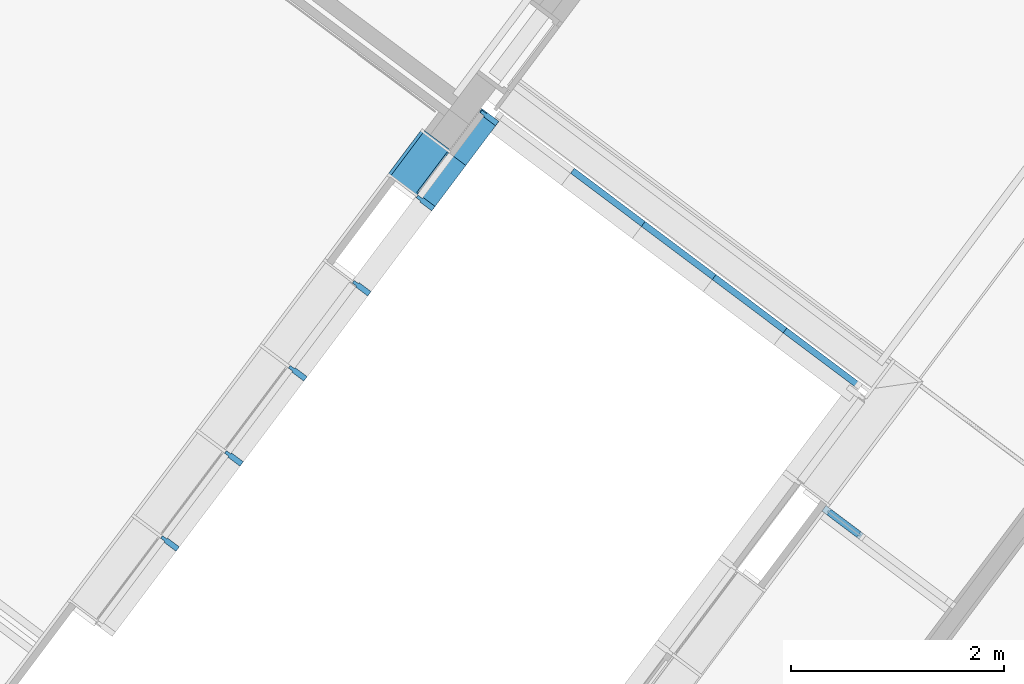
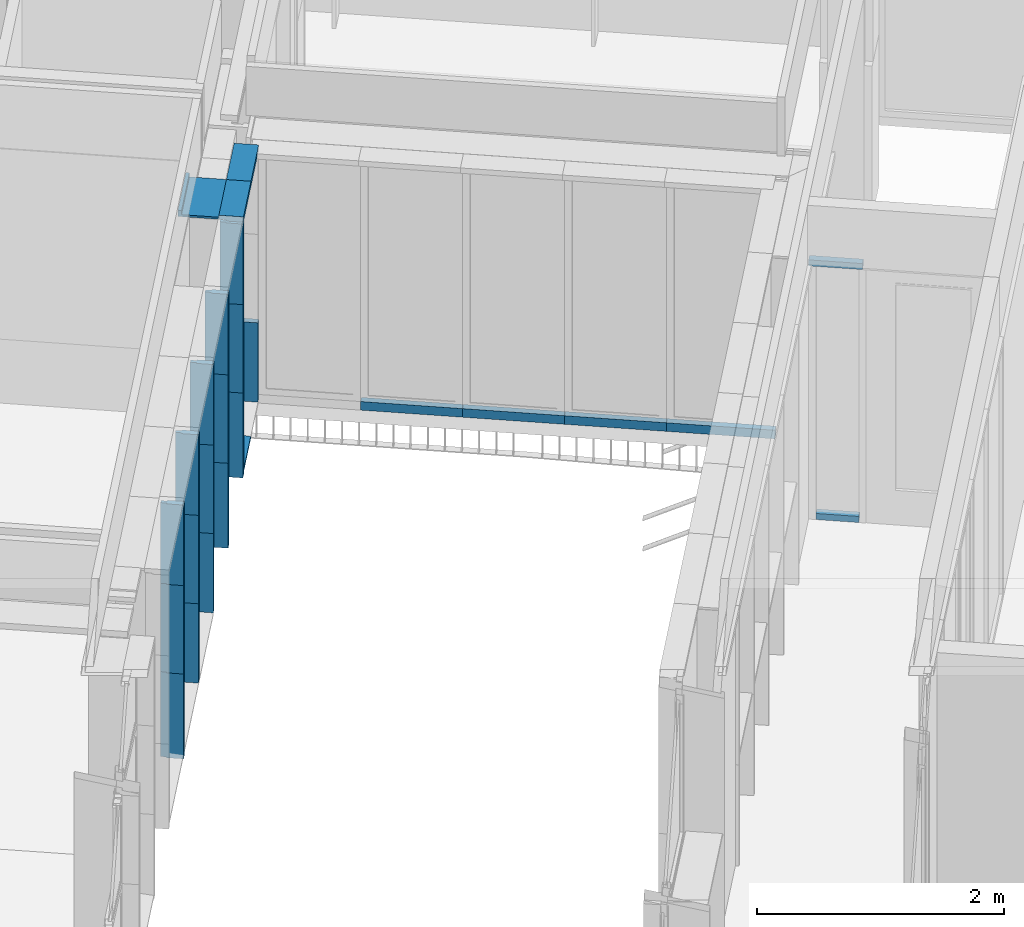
# One storey, part 104 of 243: 26 members, 4 elements without a shape of their own.
"""IFC2X3 building model written with IfcOpenShell, lengths in metres."""

import ifcopenshell
import ifcopenshell.guid

model = None  # the IFC model being written
_history = None  # IfcOwnerHistory: only IFC2X3 demands one
_inside = {}  # id of a spatial element -> (the spatial element, [elements in it])
_under = {}  # id of a project, library or spatial element -> (it, [spatial elements below it])
_declared = {}  # id of a project -> (the project, [libraries it declares])
_typed = {}  # id of a type object -> (the type object, [elements of that type])
_made_of = {}  # id of a material, layer set ... -> (it, [elements and type objects made of it])


def new_model(schema):
    """Start an empty IFC model of exactly this schema.

    Asked for "IFC4X3", IfcOpenShell would pick the latest addendum, in which some entities
    have other attributes; the version numbers below select the first issue.
    IFC2X3 requires an IfcOwnerHistory on every rooted entity: one is made here for all.
    """
    global model, _history
    if schema == "IFC4X3":
        model = ifcopenshell.file(schema_version=(4, 3, 0, 0))
    else:
        model = ifcopenshell.file(schema=schema)
    _inside.clear()
    _under.clear()
    _declared.clear()
    _typed.clear()
    _made_of.clear()
    _history = None
    if model.schema == "IFC2X3":
        org = make("IfcOrganization", Name="unknown")
        user = make(
            "IfcPersonAndOrganization",
            ThePerson=make("IfcPerson", FamilyName="unknown"),
            TheOrganization=org,
        )
        app = make(
            "IfcApplication",
            ApplicationDeveloper=org,
            Version="unknown",
            ApplicationFullName="unknown",
            ApplicationIdentifier="unknown",
        )
        _history = make(
            "IfcOwnerHistory",
            OwningUser=user,
            OwningApplication=app,
            ChangeAction="ADDED",
            CreationDate=0,
        )
    return model


def make(cls, **values):
    """One entity of the class cls with the attributes given. An attribute that is None is left unset."""
    return model.create_entity(
        cls, **{name: value for name, value in values.items() if value is not None}
    )


def entity(cls, *values):
    """Any entity or typed value of the class cls, its attributes in the order of the schema. None: left unset."""
    e = model.create_entity(cls)
    for i, value in enumerate(values):
        if value is not None:
            e[i] = value
    return e


def rooted(cls, **values):
    """An entity with a GlobalId (a new one), such as an element, a storey or a relation."""
    return make(cls, GlobalId=ifcopenshell.guid.new(), OwnerHistory=_history, **values)


def si_unit(unit_type, name, prefix=None):
    """IfcSIUnit, for example si_unit("LENGTHUNIT", "METRE", prefix="MILLI")."""
    return make("IfcSIUnit", UnitType=unit_type, Prefix=prefix, Name=name)


def converted_unit(unit_type, name, factor, base, dimensions=None, offset=None):
    """IfcConversionBasedUnit, such as the inch: factor (a typed value) times the base unit."""
    return make(
        "IfcConversionBasedUnit"
        if offset is None
        else "IfcConversionBasedUnitWithOffset",
        ConversionOffset=offset,
        Dimensions=None
        if dimensions is None
        else entity("IfcDimensionalExponents", *dimensions),
        UnitType=unit_type,
        Name=name,
        ConversionFactor=make(
            "IfcMeasureWithUnit", ValueComponent=factor, UnitComponent=base
        ),
    )


def derived_unit(unit_type, elements):
    """IfcDerivedUnit: a product of units, each with its exponent."""
    return make(
        "IfcDerivedUnit",
        Elements=[
            make("IfcDerivedUnitElement", Unit=unit, Exponent=power)
            for unit, power in elements
        ],
        UnitType=unit_type,
    )


def assignment(units):
    """IfcUnitAssignment: the units of a project."""
    return None if units is None else make("IfcUnitAssignment", Units=units)


def point(xyz):
    """IfcCartesianPoint."""
    return None if xyz is None else make("IfcCartesianPoint", Coordinates=xyz)


def direction(xyz):
    """IfcDirection."""
    return None if xyz is None else make("IfcDirection", DirectionRatios=xyz)


def frame(location, z_axis=None, x_axis=None):
    """IfcAxis2Placement3D, a coordinate frame: its origin and axes. An axis left out is left unset."""
    return make(
        "IfcAxis2Placement3D",
        Location=point(location),
        Axis=direction(z_axis),
        RefDirection=direction(x_axis),
    )


def frame_2d(location, x_axis=None):
    """IfcAxis2Placement2D, a coordinate frame in the plane: its origin and x axis."""
    return make(
        "IfcAxis2Placement2D", Location=point(location), RefDirection=direction(x_axis)
    )


def origin():
    """The frame at (0, 0, 0) with its axes left unset."""
    return frame((0.0, 0.0, 0.0))


def place(relative_to, where):
    """IfcLocalPlacement: puts the frame where relative to a parent placement (None: the world)."""
    return make(
        "IfcLocalPlacement", PlacementRelTo=relative_to, RelativePlacement=where
    )


def context(
    kind, dimensions, precision=None, world=None, true_north=None, identifier=None
):
    """IfcGeometricRepresentationContext, for example the 3D "Model" context."""
    return make(
        "IfcGeometricRepresentationContext",
        ContextIdentifier=identifier,
        ContextType=kind,
        CoordinateSpaceDimension=dimensions,
        Precision=precision,
        WorldCoordinateSystem=world,
        TrueNorth=true_north,
    )


def subcontext(parent, identifier, kind, view, scale=None):
    """IfcGeometricRepresentationSubContext, for example "Body" below "Model"."""
    return make(
        "IfcGeometricRepresentationSubContext",
        ContextIdentifier=identifier,
        ContextType=kind,
        ParentContext=parent,
        TargetScale=scale,
        TargetView=view,
    )


def project(units=None, contexts=None):
    """IfcProject with its units and contexts."""
    return rooted(
        "IfcProject",
        Name="project",
        RepresentationContexts=contexts,
        UnitsInContext=assignment(units),
    )


def spatial(cls, under=None, at=None, **own):
    """A site, building, storey or space (cls), placed at a placement, below another one or the project."""
    s = rooted(cls, ObjectPlacement=at, **own)
    if under is not None:
        _under.setdefault(under.id(), (under, []))[1].append(s)
    return s


def polyline(points):
    """IfcPolyline through the points."""
    return make("IfcPolyline", Points=[point(p) for p in points])


def circle_curve(where, radius):
    """IfcCircle in the frame where."""
    return make("IfcCircle", Position=where, Radius=radius)


def parameter(value):
    """IfcParameterValue: where a trimmed curve begins or ends, as a parameter of its basis curve."""
    return model.create_entity("IfcParameterValue", value)


def trimmed(basis, trim1, trim2, sense, master):
    """IfcTrimmedCurve: the piece of a basis curve between two trims."""
    return make(
        "IfcTrimmedCurve",
        BasisCurve=basis,
        Trim1=trim1,
        Trim2=trim2,
        SenseAgreement=sense,
        MasterRepresentation=master,
    )


def segment(curve, same_sense, transition):
    """IfcCompositeCurveSegment."""
    return make(
        "IfcCompositeCurveSegment",
        Transition=transition,
        SameSense=same_sense,
        ParentCurve=curve,
    )


def composite_curve(segments, self_intersect=None):
    """IfcCompositeCurve: segments joined end to end."""
    return make("IfcCompositeCurve", Segments=segments, SelfIntersect=self_intersect)


def profile(cls, at=None, kind="AREA", **sizes):
    """A parametric profile (cls). Its sizes go by their IFC names, for example OverallWidth=200.0."""
    return make(cls, ProfileType=kind, Position=at, **sizes)


def rectangle(**sizes):
    """IfcRectangleProfileDef."""
    return profile("IfcRectangleProfileDef", **sizes)


def outline(outer, holes=None, kind="AREA"):
    """IfcArbitraryClosedProfileDef: a profile drawn as a closed curve; with holes, ...WithVoids."""
    if holes is None:
        return make("IfcArbitraryClosedProfileDef", ProfileType=kind, OuterCurve=outer)
    return make(
        "IfcArbitraryProfileDefWithVoids",
        ProfileType=kind,
        OuterCurve=outer,
        InnerCurves=holes,
    )


def extrude(swept, where, along, depth):
    """IfcExtrudedAreaSolid: the profile swept, set in the frame where, extruded along a direction by depth."""
    return make(
        "IfcExtrudedAreaSolid",
        SweptArea=swept,
        Position=where,
        ExtrudedDirection=direction(along),
        Depth=depth,
    )


def shape(context_of_items, identifier, shape_type, items):
    """IfcShapeRepresentation: the items that make up one representation, for example the "Body"."""
    return make(
        "IfcShapeRepresentation",
        ContextOfItems=context_of_items,
        RepresentationIdentifier=identifier,
        RepresentationType=shape_type,
        Items=items,
    )


def source(mapping_origin, context_of_items, identifier, shape_type, items):
    """IfcRepresentationMap: a shape defined once, which mapped items show again and again."""
    return make(
        "IfcRepresentationMap",
        MappingOrigin=mapping_origin,
        MappedRepresentation=shape(context_of_items, identifier, shape_type, items),
    )


def transform(
    local_origin,
    x_axis=None,
    y_axis=None,
    z_axis=None,
    scale=None,
    scale2=None,
    scale3=None,
    uniform=True,
):
    """IfcCartesianTransformationOperator3D, or its non-uniform kind. x_axis, y_axis, z_axis: its Axis1, 2, 3."""
    if uniform:
        return make(
            "IfcCartesianTransformationOperator3D",
            Axis1=direction(x_axis),
            Axis2=direction(y_axis),
            LocalOrigin=point(local_origin),
            Scale=scale,
            Axis3=direction(z_axis),
        )
    return make(
        "IfcCartesianTransformationOperator3DnonUniform",
        Axis1=direction(x_axis),
        Axis2=direction(y_axis),
        LocalOrigin=point(local_origin),
        Scale=scale,
        Axis3=direction(z_axis),
        Scale2=scale2,
        Scale3=scale3,
    )


def mapped(mapping_source, mapping_target):
    """IfcMappedItem: shows the shape of a source again, moved by a transform."""
    return make(
        "IfcMappedItem", MappingSource=mapping_source, MappingTarget=mapping_target
    )


def material(Name=None, Category=None):
    """IfcMaterial."""
    return make("IfcMaterial", Name=Name, Category=Category)


def made_of(thing, what):
    """Note that an element or type object is made of a material, layer set ...; save() writes the relation."""
    if what is not None:
        _made_of.setdefault(what.id(), (what, []))[1].append(thing)
    return thing


def type_object(cls, material=None, **own):
    """A type object (cls), such as IfcWallType, which elements share."""
    return made_of(rooted(cls, **own), material)


def type_shapes(of_type, sources):
    """Give a type object the sources (RepresentationMaps) that its elements show as mapped items."""
    of_type.RepresentationMaps = sources


def element(
    cls,
    number,
    at=None,
    inside=None,
    cuts=None,
    type_object=None,
    material=None,
    context=None,
    identifier="Body",
    shape_type=None,
    held_by="IfcProductDefinitionShape",
    body=None,
    shapes=None,
    **own,
):
    """One element of the class cls, such as IfcWall. Its Tag is "e" and its number.

    at: its placement. inside: the storey or other place that contains it. cuts: it is an
    opening in that element (IfcRelVoidsElement). A single representation is given by context,
    identifier, shape_type and body (its items); several are given by shapes. held_by: the class
    of the entity that holds the representations. save() writes the other relations.
    """
    e = rooted(cls, Tag="e%d" % number, ObjectPlacement=at, **own)
    if body is not None:
        shapes = [shape(context, identifier, shape_type, body)]
    if shapes is not None:
        e.Representation = make(held_by, Representations=shapes)
    if inside is not None:
        _inside.setdefault(inside.id(), (inside, []))[1].append(e)
    if cuts is not None:
        rooted(
            "IfcRelVoidsElement", RelatingBuildingElement=cuts, RelatedOpeningElement=e
        )
    if type_object is not None:
        _typed.setdefault(type_object.id(), (type_object, []))[1].append(e)
    return made_of(e, material)


def aggregate(whole, parts):
    """IfcRelAggregates: a whole, such as a stair, and the parts it consists of."""
    return rooted("IfcRelAggregates", RelatingObject=whole, RelatedObjects=parts)


def save(model, path):
    """Write the relations noted so far, then the file.

    IfcRelAggregates (storeys below a building ...), IfcRelContainedInSpatialStructure (elements
    in a storey), IfcRelDefinesByType, IfcRelAssociatesMaterial and IfcRelDeclares: one each for
    every whole, place, type object, material and project.
    """
    for whole, parts in _under.values():
        aggregate(whole, parts)
    for where, things in _inside.values():
        rooted(
            "IfcRelContainedInSpatialStructure",
            RelatedElements=things,
            RelatingStructure=where,
        )
    for kind, things in _typed.values():
        rooted("IfcRelDefinesByType", RelatedObjects=things, RelatingType=kind)
    for what, things in _made_of.values():
        rooted("IfcRelAssociatesMaterial", RelatedObjects=things, RelatingMaterial=what)
    for by, libraries in _declared.values():
        rooted("IfcRelDeclares", RelatingContext=by, RelatedDefinitions=libraries)
    model.write(path)


model = new_model("IFC2X3")

# Units and contexts
model_context = context("Model", 3, precision=1e-05, world=origin(), true_north=direction((6.123031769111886e-17, 1.0)))
body_context = subcontext(model_context, "Body", "Model", "MODEL_VIEW")
ifc_project = project(units=[si_unit("LENGTHUNIT", "METRE"), si_unit("AREAUNIT", "SQUARE_METRE"), si_unit("VOLUMEUNIT", "CUBIC_METRE"), converted_unit("PLANEANGLEUNIT", "DEGREE", entity("IfcRatioMeasure", 0.017453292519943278), si_unit("PLANEANGLEUNIT", "RADIAN"), dimensions=[0, 0, 0, 0, 0, 0, 0]), si_unit("MASSUNIT", "GRAM", prefix="KILO"), derived_unit("MASSDENSITYUNIT", [(si_unit("MASSUNIT", "GRAM", prefix="KILO"), 1), (si_unit("LENGTHUNIT", "METRE"), -3)]), derived_unit("IONCONCENTRATIONUNIT", [(si_unit("MASSUNIT", "GRAM", prefix="KILO"), 1), (si_unit("LENGTHUNIT", "METRE"), -3)]), derived_unit("MOMENTOFINERTIAUNIT", [(si_unit("LENGTHUNIT", "METRE"), 4)]), si_unit("TIMEUNIT", "SECOND"), si_unit("FREQUENCYUNIT", "HERTZ"), si_unit("THERMODYNAMICTEMPERATUREUNIT", "DEGREE_CELSIUS"), derived_unit("THERMALTRANSMITTANCEUNIT", [(si_unit("MASSUNIT", "GRAM", prefix="KILO"), 1), (si_unit("THERMODYNAMICTEMPERATUREUNIT", "KELVIN"), -1), (si_unit("TIMEUNIT", "SECOND"), -3)]), derived_unit("THERMALCONDUCTANCEUNIT", [(si_unit("MASSUNIT", "GRAM", prefix="KILO"), 1), (si_unit("THERMODYNAMICTEMPERATUREUNIT", "KELVIN"), -1), (si_unit("TIMEUNIT", "SECOND"), -3), (si_unit("LENGTHUNIT", "METRE"), 1)]), derived_unit("VOLUMETRICFLOWRATEUNIT", [(si_unit("LENGTHUNIT", "METRE"), 3), (si_unit("TIMEUNIT", "SECOND"), -1)]), derived_unit("MASSFLOWRATEUNIT", [(si_unit("MASSUNIT", "GRAM", prefix="KILO"), 1), (si_unit("TIMEUNIT", "SECOND"), -1)]), derived_unit("ROTATIONALFREQUENCYUNIT", [(si_unit("TIMEUNIT", "SECOND"), -1)]), si_unit("ELECTRICCURRENTUNIT", "AMPERE"), si_unit("ELECTRICVOLTAGEUNIT", "VOLT"), si_unit("POWERUNIT", "WATT"), si_unit("FORCEUNIT", "NEWTON", prefix="KILO"), si_unit("ILLUMINANCEUNIT", "LUX"), si_unit("LUMINOUSFLUXUNIT", "LUMEN"), si_unit("LUMINOUSINTENSITYUNIT", "CANDELA"), derived_unit("USERDEFINED", [(si_unit("MASSUNIT", "GRAM", prefix="KILO"), -1), (si_unit("LENGTHUNIT", "METRE"), -2), (si_unit("TIMEUNIT", "SECOND"), 3), (si_unit("LUMINOUSFLUXUNIT", "LUMEN"), 1)]), derived_unit("USERDEFINED", [(si_unit("MASSUNIT", "GRAM", prefix="KILO"), 1), (si_unit("TIMEUNIT", "SECOND"), -3), (si_unit("LENGTHUNIT", "METRE"), 3), (si_unit("ELECTRICCURRENTUNIT", "AMPERE"), -2)]), derived_unit("SOUNDPOWERUNIT", [(si_unit("MASSUNIT", "GRAM", prefix="KILO"), 1), (si_unit("TIMEUNIT", "SECOND"), -3), (si_unit("LENGTHUNIT", "METRE"), 2)]), derived_unit("SOUNDPRESSUREUNIT", [(si_unit("MASSUNIT", "GRAM", prefix="KILO"), 1), (si_unit("LENGTHUNIT", "METRE"), -1), (si_unit("TIMEUNIT", "SECOND"), -2)]), derived_unit("LINEARVELOCITYUNIT", [(si_unit("LENGTHUNIT", "METRE"), 1), (si_unit("TIMEUNIT", "SECOND"), -1)]), si_unit("PRESSUREUNIT", "PASCAL"), derived_unit("USERDEFINED", [(si_unit("MASSUNIT", "GRAM", prefix="KILO"), 1), (si_unit("LENGTHUNIT", "METRE"), -2), (si_unit("TIMEUNIT", "SECOND"), -2)]), derived_unit("LINEARFORCEUNIT", [(si_unit("MASSUNIT", "GRAM", prefix="KILO"), 1), (si_unit("TIMEUNIT", "SECOND"), -2)]), derived_unit("PLANARFORCEUNIT", [(si_unit("MASSUNIT", "GRAM", prefix="KILO"), 1), (si_unit("LENGTHUNIT", "METRE"), -1), (si_unit("TIMEUNIT", "SECOND"), -2)]), derived_unit("SPECIFICHEATCAPACITYUNIT", [(si_unit("THERMODYNAMICTEMPERATUREUNIT", "KELVIN"), -1), (si_unit("LENGTHUNIT", "METRE"), 2), (si_unit("TIMEUNIT", "SECOND"), -2)]), derived_unit("HEATINGVALUEUNIT", [(si_unit("LENGTHUNIT", "METRE"), 2), (si_unit("TIMEUNIT", "SECOND"), -2)]), derived_unit("VAPORPERMEABILITYUNIT", [(si_unit("LENGTHUNIT", "METRE"), -1), (si_unit("TIMEUNIT", "SECOND"), 1)]), derived_unit("DYNAMICVISCOSITYUNIT", [(si_unit("MASSUNIT", "GRAM", prefix="KILO"), 1), (si_unit("TIMEUNIT", "SECOND"), -1), (si_unit("LENGTHUNIT", "METRE"), -1)]), derived_unit("THERMALEXPANSIONCOEFFICIENTUNIT", [(si_unit("THERMODYNAMICTEMPERATUREUNIT", "KELVIN"), -1)]), derived_unit("MODULUSOFELASTICITYUNIT", [(si_unit("MASSUNIT", "GRAM", prefix="KILO"), 1), (si_unit("LENGTHUNIT", "METRE"), -1), (si_unit("TIMEUNIT", "SECOND"), -2)]), derived_unit("ISOTHERMALMOISTURECAPACITYUNIT", [(si_unit("LENGTHUNIT", "METRE"), 3), (si_unit("MASSUNIT", "GRAM", prefix="KILO"), -1)]), derived_unit("MOISTUREDIFFUSIVITYUNIT", [(si_unit("TIMEUNIT", "SECOND"), -1), (si_unit("LENGTHUNIT", "METRE"), 2)])], contexts=[model_context])

# Site, building, storey
site_placement = place(None, frame((0.0, 0.0, 235.0), z_axis=(0.0, 0.0, 1.0), x_axis=(-0.7996477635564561, 0.6004693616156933, 0.0)))
site = spatial("IfcSite", under=ifc_project, at=site_placement, Name="Default", CompositionType="ELEMENT")
building_placement = place(site_placement, origin())
building = spatial("IfcBuilding", under=site, at=building_placement, CompositionType="ELEMENT")
storey_placement = place(building_placement, origin())
storey = spatial("IfcBuildingStorey", under=building, at=storey_placement, Name="P0- Escola", CompositionType="ELEMENT", Elevation=0.0)

# Curtain wall, members
curtain_wall_type_1 = type_object("IfcCurtainWallType", Name="Muro cortina:MC- EXT- MC2", PredefinedType="NOTDEFINED")
curtain_wall_1_placement = place(storey_placement, origin())
curtain_wall_1 = element("IfcCurtainWall", 1, at=curtain_wall_1_placement, inside=storey, type_object=curtain_wall_type_1, Name="Muro cortina:MC- EXT- MC2", ObjectType="Muro cortina:MC- EXT- MC2")
ifc_material_1 = material(Name="_Alumini- T1- Perfil")
member_type_1 = type_object("IfcMemberType", Name="Montante rectangular:MC- Alu- 140x52,5 cm- Fa patis- Centre", PredefinedType="MULLION", material=ifc_material_1)
shared_shape_1 = source(origin(), body_context, "Body", "SweptSolid", [
    extrude(outline(polyline([(-0.11699999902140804, -0.026250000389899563), (0.021999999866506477, -0.026250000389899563), (0.021999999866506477, -0.01500000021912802), (0.07299999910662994, -0.01500000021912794), (0.07299999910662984, 0.015000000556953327), (0.02200000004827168, 0.015000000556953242), (0.02200000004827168, 0.026250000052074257), (-0.11699999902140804, 0.026250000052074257), (-0.11699999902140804, -0.026250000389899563)])), frame((0.0, 0.022999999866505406, -0.8400000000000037), z_axis=(0.0, 0.0, 1.0), x_axis=(0.0, -1.0, 0.0)), (0.0, 0.0, 1.0), 0.8400000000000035),
])
type_shapes(member_type_1, [shared_shape_1])
member_1_placement = place(curtain_wall_1_placement, frame((41.04514768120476, -31.41519175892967, -0.02), z_axis=(0.0, 0.0, -1.0), x_axis=(0.0, -1.0, 0.0)))
member_1 = element("IfcMember", 2, at=member_1_placement, type_object=member_type_1, material=ifc_material_1, Name="Montante rectangular:MC- Alu- 140x52,5 cm- Fa patis- Centre", ObjectType="Montante rectangular:MC- Alu- 140x52,5 cm- Fa patis- Centre", context=body_context, shape_type="MappedRepresentation", body=[
    mapped(shared_shape_1, transform((0.0, 0.0, 0.0), scale=1.0)),
])
member_2_placement = place(curtain_wall_1_placement, frame((41.04514768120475, -35.415191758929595, -0.02), z_axis=(0.0, 0.0, -1.0), x_axis=(0.0, -1.0, 0.0)))
member_2 = element("IfcMember", 3, at=member_2_placement, type_object=member_type_1, material=ifc_material_1, Name="Montante rectangular:MC- Alu- 140x52,5 cm- Fa patis- Centre", ObjectType="Montante rectangular:MC- Alu- 140x52,5 cm- Fa patis- Centre", context=body_context, shape_type="MappedRepresentation", body=[
    mapped(shared_shape_1, transform((0.0, 0.0, 0.0), scale=1.0)),
])
member_3_placement = place(curtain_wall_1_placement, frame((41.04514768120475, -34.41519175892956, -0.02), z_axis=(0.0, 0.0, -1.0), x_axis=(0.0, -1.0, 0.0)))
member_3 = element("IfcMember", 4, at=member_3_placement, type_object=member_type_1, material=ifc_material_1, Name="Montante rectangular:MC- Alu- 140x52,5 cm- Fa patis- Centre", ObjectType="Montante rectangular:MC- Alu- 140x52,5 cm- Fa patis- Centre", context=body_context, shape_type="MappedRepresentation", body=[
    mapped(shared_shape_1, transform((0.0, 0.0, 0.0), scale=1.0)),
])
member_type_2 = type_object("IfcMemberType", Name="Montante rectangular:MC- Alu- 140x52,5 cm- Fa patis- Centre", PredefinedType="MULLION", material=ifc_material_1)
shared_shape_2 = source(origin(), body_context, "Body", "SweptSolid", [
    extrude(outline(polyline([(-0.11699999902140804, -0.026250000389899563), (0.021999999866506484, -0.026250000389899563), (0.021999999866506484, -0.01500000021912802), (0.07299999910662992, -0.01500000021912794), (0.07299999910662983, 0.015000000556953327), (0.022000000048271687, 0.015000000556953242), (0.022000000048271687, 0.026250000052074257), (-0.11699999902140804, 0.026250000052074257), (-0.11699999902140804, -0.026250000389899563)])), frame((0.0, 0.022999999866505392, -0.7850000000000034), z_axis=(0.0, 0.0, 1.0), x_axis=(0.0, -1.0, 0.0)), (0.0, 0.0, 1.0), 0.7850000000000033),
])
type_shapes(member_type_2, [shared_shape_2])
member_4_placement = place(curtain_wall_1_placement, frame((41.04514768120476, -32.415191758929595, 0.035000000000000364), z_axis=(0.0, 0.0, -1.0), x_axis=(0.0, -1.0, 0.0)))
member_4 = element("IfcMember", 5, at=member_4_placement, type_object=member_type_2, material=ifc_material_1, Name="Montante rectangular:MC- Alu- 140x52,5 cm- Fa patis- Centre", ObjectType="Montante rectangular:MC- Alu- 140x52,5 cm- Fa patis- Centre", context=body_context, shape_type="MappedRepresentation", body=[
    mapped(shared_shape_2, transform((0.0, 0.0, 0.0), scale=1.0)),
])
member_5_placement = place(curtain_wall_1_placement, frame((41.04514768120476, -33.415191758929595, 0.035000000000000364), z_axis=(0.0, 0.0, -1.0), x_axis=(0.0, -1.0, 0.0)))
member_5 = element("IfcMember", 6, at=member_5_placement, type_object=member_type_2, material=ifc_material_1, Name="Montante rectangular:MC- Alu- 140x52,5 cm- Fa patis- Centre", ObjectType="Montante rectangular:MC- Alu- 140x52,5 cm- Fa patis- Centre", context=body_context, shape_type="MappedRepresentation", body=[
    mapped(shared_shape_2, transform((0.0, 0.0, 0.0), scale=1.0)),
])
member_type_3 = type_object("IfcMemberType", Name="Montante rectangular:MC- Alu- 140x52,5 cm- Fa patis- Centre", PredefinedType="MULLION", material=ifc_material_1)
shared_shape_3 = source(origin(), body_context, "Body", "SweptSolid", [
    extrude(outline(polyline([(-0.11699999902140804, -0.026250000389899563), (0.021999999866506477, -0.026250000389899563), (0.021999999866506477, -0.01500000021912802), (0.07299999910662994, -0.01500000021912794), (0.07299999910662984, 0.015000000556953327), (0.02200000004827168, 0.015000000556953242), (0.02200000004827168, 0.026250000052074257), (-0.11699999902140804, 0.026250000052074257), (-0.11699999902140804, -0.026250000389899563)])), frame((0.0, 0.022999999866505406, -0.8750000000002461), z_axis=(0.0, 0.0, 1.0), x_axis=(0.0, -1.0, 0.0)), (0.0, 0.0, 1.0), 0.8750000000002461),
])
type_shapes(member_type_3, [shared_shape_3])
member_6_placement = place(curtain_wall_1_placement, frame((41.04514768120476, -31.41519175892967, 0.8200000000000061), z_axis=(0.0, 0.0, -1.0), x_axis=(0.0, -1.0, 0.0)))
member_6 = element("IfcMember", 7, at=member_6_placement, type_object=member_type_3, material=ifc_material_1, Name="Montante rectangular:MC- Alu- 140x52,5 cm- Fa patis- Centre", ObjectType="Montante rectangular:MC- Alu- 140x52,5 cm- Fa patis- Centre", context=body_context, shape_type="MappedRepresentation", body=[
    mapped(shared_shape_3, transform((0.0, 0.0, 0.0), scale=1.0)),
])
member_7_placement = place(curtain_wall_1_placement, frame((41.04514768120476, -32.415191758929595, 0.8200000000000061), z_axis=(0.0, 0.0, -1.0), x_axis=(0.0, -1.0, 0.0)))
member_7 = element("IfcMember", 8, at=member_7_placement, type_object=member_type_3, material=ifc_material_1, Name="Montante rectangular:MC- Alu- 140x52,5 cm- Fa patis- Centre", ObjectType="Montante rectangular:MC- Alu- 140x52,5 cm- Fa patis- Centre", context=body_context, shape_type="MappedRepresentation", body=[
    mapped(shared_shape_3, transform((0.0, 0.0, 0.0), scale=1.0)),
])
member_8_placement = place(curtain_wall_1_placement, frame((41.04514768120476, -33.415191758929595, 0.8200000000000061), z_axis=(0.0, 0.0, -1.0), x_axis=(0.0, -1.0, 0.0)))
member_8 = element("IfcMember", 9, at=member_8_placement, type_object=member_type_3, material=ifc_material_1, Name="Montante rectangular:MC- Alu- 140x52,5 cm- Fa patis- Centre", ObjectType="Montante rectangular:MC- Alu- 140x52,5 cm- Fa patis- Centre", context=body_context, shape_type="MappedRepresentation", body=[
    mapped(shared_shape_3, transform((0.0, 0.0, 0.0), scale=1.0)),
])
member_9_placement = place(curtain_wall_1_placement, frame((41.04514768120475, -34.41519175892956, 0.8200000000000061), z_axis=(0.0, 0.0, -1.0), x_axis=(0.0, -1.0, 0.0)))
member_9 = element("IfcMember", 10, at=member_9_placement, type_object=member_type_3, material=ifc_material_1, Name="Montante rectangular:MC- Alu- 140x52,5 cm- Fa patis- Centre", ObjectType="Montante rectangular:MC- Alu- 140x52,5 cm- Fa patis- Centre", context=body_context, shape_type="MappedRepresentation", body=[
    mapped(shared_shape_3, transform((0.0, 0.0, 0.0), scale=1.0)),
])
member_10_placement = place(curtain_wall_1_placement, frame((41.04514768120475, -35.415191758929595, 0.8200000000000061), z_axis=(0.0, 0.0, -1.0), x_axis=(0.0, -1.0, 0.0)))
member_10 = element("IfcMember", 11, at=member_10_placement, type_object=member_type_3, material=ifc_material_1, Name="Montante rectangular:MC- Alu- 140x52,5 cm- Fa patis- Centre", ObjectType="Montante rectangular:MC- Alu- 140x52,5 cm- Fa patis- Centre", context=body_context, shape_type="MappedRepresentation", body=[
    mapped(shared_shape_3, transform((0.0, 0.0, 0.0), scale=1.0)),
])

# Curtain wall, member
curtain_wall_type_2 = type_object("IfcCurtainWallType", Name="Muro cortina:MC- INT- k7- Aules infantil", PredefinedType="NOTDEFINED")
curtain_wall_2_placement = place(storey_placement, origin())
curtain_wall_2 = element("IfcCurtainWall", 12, at=curtain_wall_2_placement, inside=storey, type_object=curtain_wall_type_2, Name="Muro cortina:MC- INT- k7- Aules infantil", ObjectType="Muro cortina:MC- INT- k7- Aules infantil")
ifc_material_2 = material(Name="_Fusta massisa- T1")
member_type_4 = type_object("IfcMemberType", Name="Montante rectangular:MC- Fusta- 35x3 cm- Pati aules- Remat superior", PredefinedType="MULLION", material=ifc_material_2)
shared_shape_4 = source(origin(), body_context, "Body", "SweptSolid", [
    extrude(outline(polyline([(-0.21333333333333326, -0.02666666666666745), (0.1216666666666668, -0.02666666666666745), (0.12166666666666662, 0.03333333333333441), (0.09166666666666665, 0.03333333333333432), (0.09166666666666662, -0.006666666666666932), (-0.2133333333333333, -0.006666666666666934), (-0.21333333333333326, -0.02666666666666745)])), frame((-0.033333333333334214, 0.026666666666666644, -0.5379982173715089), z_axis=(0.0, 0.0, 1.0), x_axis=(0.0, -1.0, 0.0)), (0.0, 0.0, 1.0), 0.5379982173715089),
])
type_shapes(member_type_4, [shared_shape_4])
member_11_placement = place(curtain_wall_2_placement, frame((41.345147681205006, -35.95318997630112, 2.565), z_axis=(0.0, -1.0, 0.0), x_axis=(0.0, 0.0, 1.0)))
member_11 = element("IfcMember", 13, at=member_11_placement, type_object=member_type_4, material=ifc_material_2, Name="Montante rectangular:MC- Fusta- 35x3 cm- Pati aules- Remat superior", ObjectType="Montante rectangular:MC- Fusta- 35x3 cm- Pati aules- Remat superior", context=body_context, shape_type="MappedRepresentation", body=[
    mapped(shared_shape_4, transform((0.0, 0.0, 0.0), scale=1.0)),
])
aggregate(curtain_wall_2, [member_11])

# Member
member_type_5 = type_object("IfcMemberType", Name="Montante rectangular:MC- Alu- 140x52,5 cm- Fa patis- Superior", PredefinedType="MULLION", material=ifc_material_1)
shared_shape_5 = source(origin(), body_context, "Body", "SweptSolid", [
    extrude(outline(polyline([(-0.11366666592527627, -0.021249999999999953), (0.02633333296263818, -0.021249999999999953), (0.02633333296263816, -0.010000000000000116), (0.08733333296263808, -0.010000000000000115), (0.08733333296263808, 0.03125000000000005), (-0.11366666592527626, 0.031250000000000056), (-0.11366666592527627, -0.021249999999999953)])), frame((-0.031250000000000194, 0.027333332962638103, -0.518199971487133), z_axis=(0.0, 0.0, 1.0), x_axis=(0.0, -1.0, 0.0)), (0.0, 0.0, 1.0), 0.518199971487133),
])
type_shapes(member_type_5, [shared_shape_5])
member_12_placement = place(curtain_wall_1_placement, frame((41.04514768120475, -36.44138994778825, 2.545), z_axis=(0.0, -1.0, 0.0), x_axis=(0.0, 0.0, 1.0)))
member_12 = element("IfcMember", 14, at=member_12_placement, type_object=member_type_5, material=ifc_material_1, Name="Montante rectangular:MC- Alu- 140x52,5 cm- Fa patis- Superior", ObjectType="Montante rectangular:MC- Alu- 140x52,5 cm- Fa patis- Superior", context=body_context, shape_type="MappedRepresentation", body=[
    mapped(shared_shape_5, transform((0.0, 0.0, 0.0), scale=1.0)),
])

member_type_6 = type_object("IfcMemberType", Name="Montante rectangular:MC- Alu- 140x52,5 cm- Fa patis- Centre", PredefinedType="MULLION", material=ifc_material_1)
shared_shape_6 = source(origin(), body_context, "Body", "SweptSolid", [
    extrude(outline(polyline([(-0.11699999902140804, -0.026250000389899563), (0.021999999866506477, -0.026250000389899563), (0.021999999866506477, -0.015000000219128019), (0.07299999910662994, -0.015000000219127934), (0.07299999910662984, 0.015000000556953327), (0.02200000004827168, 0.015000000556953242), (0.02200000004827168, 0.026250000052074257), (-0.11699999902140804, 0.026250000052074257), (-0.11699999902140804, -0.026250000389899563)])), frame((-0.026250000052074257, 0.022999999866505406, -0.7850000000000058), z_axis=(0.0, 0.0, 1.0), x_axis=(0.0, -1.0, 0.0)), (0.0, 0.0, 1.0), 0.7850000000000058),
])
type_shapes(member_type_6, [shared_shape_6])
member_13_placement = place(curtain_wall_1_placement, frame((41.04514768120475, -36.44138994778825, 0.035000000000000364), z_axis=(0.0, 0.0, -1.0), x_axis=(0.0, -1.0, 0.0)))
member_13 = element("IfcMember", 15, at=member_13_placement, type_object=member_type_6, material=ifc_material_1, Name="Montante rectangular:MC- Alu- 140x52,5 cm- Fa patis- Centre", ObjectType="Montante rectangular:MC- Alu- 140x52,5 cm- Fa patis- Centre", context=body_context, shape_type="MappedRepresentation", body=[
    mapped(shared_shape_6, transform((0.0, 0.0, 0.0), scale=1.0)),
])

member_type_7 = type_object("IfcMemberType", Name="Montante rectangular:MC- Alu- 140x52,5 cm- Fa patis- inferior", PredefinedType="MULLION", material=ifc_material_1)
shared_shape_7 = source(origin(), body_context, "Body", "SweptSolid", [
    extrude(outline(composite_curve([segment(polyline([(0.1278672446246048, -0.025867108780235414), (0.14416724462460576, -0.025867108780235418)]), True, "CONTINUOUS"), segment(polyline([(0.14416724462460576, -0.025867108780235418), (0.1441672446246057, 0.009132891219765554)]), True, "CONTINUOUS"), segment(polyline([(0.1441672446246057, 0.009132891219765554), (0.06786724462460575, 0.009132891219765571)]), True, "CONTINUOUS"), segment(polyline([(0.06786724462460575, 0.009132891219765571), (0.06786724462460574, -0.021159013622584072)]), True, "CONTINUOUS"), segment(polyline([(0.06786724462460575, -0.021159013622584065), (-0.030132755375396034, -0.012332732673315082)]), True, "CONTINUOUS"), segment(polyline([(-0.03013275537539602, -0.012332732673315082), (-0.030132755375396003, 0.0271328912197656)]), True, "CONTINUOUS"), segment(polyline([(-0.030132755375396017, 0.027132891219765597), (-0.0021327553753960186, 0.027132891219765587)]), True, "CONTINUOUS"), segment(polyline([(-0.0021327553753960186, 0.02713289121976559), (-0.0021327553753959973, 0.029132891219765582)]), True, "CONTINUOUS"), segment(polyline([(-0.0021327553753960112, 0.029132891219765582), (-0.032132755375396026, 0.029132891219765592)]), True, "CONTINUOUS"), segment(polyline([(-0.032132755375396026, 0.029132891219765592), (-0.03213275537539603, -0.012152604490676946)]), True, "CONTINUOUS"), segment(polyline([(-0.03213275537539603, -0.012152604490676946), (-0.0701327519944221, -0.008730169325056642)]), True, "CONTINUOUS"), segment(polyline([(-0.0701327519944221, -0.008730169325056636), (-0.0701327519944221, 0.005766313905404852)]), True, "CONTINUOUS"), segment(trimmed(circle_curve(frame_2d((-0.0696327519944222, 0.005766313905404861), x_axis=(-1.0, 0.0)), 0.0004999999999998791), [parameter(269.999999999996)], [parameter(0.0)], True, "PARAMETER"), False, "CONTINUOUS"), segment(polyline([(-0.0696327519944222, 0.006266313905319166), (-0.06213275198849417, 0.0062663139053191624)]), True, "CONTINUOUS"), segment(polyline([(-0.06213275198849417, 0.0062663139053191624), (-0.06213275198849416, 0.008266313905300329)]), True, "CONTINUOUS"), segment(polyline([(-0.06213275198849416, 0.008266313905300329), (-0.07013275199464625, 0.00826631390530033)]), True, "CONTINUOUS"), segment(trimmed(circle_curve(frame_2d((-0.07013275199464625, 0.006266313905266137), x_axis=(0.0, 1.0)), 0.0020000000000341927), [parameter(0.0)], [parameter(90.00000002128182)], True, "PARAMETER"), True, "CONTINUOUS"), segment(polyline([(-0.07213275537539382, 0.00626631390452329), (-0.07213275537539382, -0.008730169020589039)]), True, "CONTINUOUS"), segment(trimmed(circle_curve(frame_2d((-0.07013275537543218, -0.008730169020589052), x_axis=(-1.0, 0.0)), 0.0019999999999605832), [parameter(0.0)], [parameter(84.85359280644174)], True, "PARAMETER"), True, "CONTINUOUS"), segment(polyline([(-0.07031215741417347, -0.010722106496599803), (0.06786724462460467, -0.023167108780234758)]), True, "CONTINUOUS"), segment(polyline([(0.06786724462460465, -0.02316710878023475), (0.12786724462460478, -0.02316710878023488)]), True, "CONTINUOUS"), segment(polyline([(0.12786724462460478, -0.02316710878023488), (0.1278672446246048, -0.025867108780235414)]), True, "CONTINUOUS")], self_intersect=False)), frame((-0.029132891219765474, 0.06786724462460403, -0.4817482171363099), z_axis=(0.0, 0.0, 1.0), x_axis=(0.0, -1.0, 0.0)), (0.0, 0.0, 1.0), 0.48174821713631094),
])
type_shapes(member_type_7, [shared_shape_7])
member_14_placement = place(curtain_wall_1_placement, frame((41.04514768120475, -35.4414417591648, -0.02), z_axis=(0.0, 1.0, 0.0), x_axis=(0.0, 0.0, -1.0)))
member_14 = element("IfcMember", 16, at=member_14_placement, type_object=member_type_7, material=ifc_material_1, Name="Montante rectangular:MC- Alu- 140x52,5 cm- Fa patis- inferior", ObjectType="Montante rectangular:MC- Alu- 140x52,5 cm- Fa patis- inferior", context=body_context, shape_type="MappedRepresentation", body=[
    mapped(shared_shape_7, transform((0.0, 0.0, 0.0), scale=1.0)),
])

member_type_8 = type_object("IfcMemberType", Name="Montante rectangular:MC- Alu- 140x52,5 cm- Fa patis- Superior", PredefinedType="MULLION", material=ifc_material_1)
shared_shape_8 = source(origin(), body_context, "Body", "SweptSolid", [
    extrude(outline(polyline([(-0.11366666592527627, -0.021249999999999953), (0.02633333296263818, -0.021249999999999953), (0.02633333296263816, -0.010000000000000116), (0.08733333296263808, -0.010000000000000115), (0.08733333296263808, 0.03125000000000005), (-0.11366666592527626, 0.031250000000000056), (-0.11366666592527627, -0.021249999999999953)])), frame((-0.031250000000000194, 0.027333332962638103, -0.5079982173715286), z_axis=(0.0, 0.0, 1.0), x_axis=(0.0, -1.0, 0.0)), (0.0, 0.0, 1.0), 0.5079982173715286),
])
type_shapes(member_type_8, [shared_shape_8])
member_15_placement = place(curtain_wall_1_placement, frame((41.04514768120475, -35.92318997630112, 2.545), z_axis=(0.0, -1.0, 0.0), x_axis=(0.0, 0.0, 1.0)))
member_15 = element("IfcMember", 17, at=member_15_placement, type_object=member_type_8, material=ifc_material_1, Name="Montante rectangular:MC- Alu- 140x52,5 cm- Fa patis- Superior", ObjectType="Montante rectangular:MC- Alu- 140x52,5 cm- Fa patis- Superior", context=body_context, shape_type="MappedRepresentation", body=[
    mapped(shared_shape_8, transform((0.0, 0.0, 0.0), scale=1.0)),
])

member_type_9 = type_object("IfcMemberType", Name="Montante rectangular:MC- Alu- 140x52,5 cm- Fa patis- Centre", PredefinedType="MULLION", material=ifc_material_1)
shared_shape_9 = source(origin(), body_context, "Body", "SweptSolid", [
    extrude(outline(polyline([(-0.11699999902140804, -0.026250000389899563), (0.021999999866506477, -0.026250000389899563), (0.021999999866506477, -0.01500000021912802), (0.07299999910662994, -0.01500000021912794), (0.07299999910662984, 0.015000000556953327), (0.02200000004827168, 0.015000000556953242), (0.02200000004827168, 0.026250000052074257), (-0.11699999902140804, 0.026250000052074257), (-0.11699999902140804, -0.026250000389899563)])), frame((0.0, 0.022999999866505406, -0.79749999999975), z_axis=(0.0, 0.0, 1.0), x_axis=(0.0, -1.0, 0.0)), (0.0, 0.0, 1.0), 0.79749999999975),
])
type_shapes(member_type_9, [shared_shape_9])
member_16_placement = place(curtain_wall_1_placement, frame((41.04514768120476, -31.41519175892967, 1.6950000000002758), z_axis=(0.0, 0.0, -1.0), x_axis=(0.0, -1.0, 0.0)))
member_16 = element("IfcMember", 18, at=member_16_placement, type_object=member_type_9, material=ifc_material_1, Name="Montante rectangular:MC- Alu- 140x52,5 cm- Fa patis- Centre", ObjectType="Montante rectangular:MC- Alu- 140x52,5 cm- Fa patis- Centre", context=body_context, shape_type="MappedRepresentation", body=[
    mapped(shared_shape_9, transform((0.0, 0.0, 0.0), scale=1.0)),
])

member_17_placement = place(curtain_wall_1_placement, frame((41.04514768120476, -32.415191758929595, 1.6950000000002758), z_axis=(0.0, 0.0, -1.0), x_axis=(0.0, -1.0, 0.0)))
member_17 = element("IfcMember", 19, at=member_17_placement, type_object=member_type_9, material=ifc_material_1, Name="Montante rectangular:MC- Alu- 140x52,5 cm- Fa patis- Centre", ObjectType="Montante rectangular:MC- Alu- 140x52,5 cm- Fa patis- Centre", context=body_context, shape_type="MappedRepresentation", body=[
    mapped(shared_shape_9, transform((0.0, 0.0, 0.0), scale=1.0)),
])

member_18_placement = place(curtain_wall_1_placement, frame((41.04514768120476, -33.415191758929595, 1.6950000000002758), z_axis=(0.0, 0.0, -1.0), x_axis=(0.0, -1.0, 0.0)))
member_18 = element("IfcMember", 20, at=member_18_placement, type_object=member_type_9, material=ifc_material_1, Name="Montante rectangular:MC- Alu- 140x52,5 cm- Fa patis- Centre", ObjectType="Montante rectangular:MC- Alu- 140x52,5 cm- Fa patis- Centre", context=body_context, shape_type="MappedRepresentation", body=[
    mapped(shared_shape_9, transform((0.0, 0.0, 0.0), scale=1.0)),
])

member_19_placement = place(curtain_wall_1_placement, frame((41.04514768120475, -34.41519175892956, 1.6950000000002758), z_axis=(0.0, 0.0, -1.0), x_axis=(0.0, -1.0, 0.0)))
member_19 = element("IfcMember", 21, at=member_19_placement, type_object=member_type_9, material=ifc_material_1, Name="Montante rectangular:MC- Alu- 140x52,5 cm- Fa patis- Centre", ObjectType="Montante rectangular:MC- Alu- 140x52,5 cm- Fa patis- Centre", context=body_context, shape_type="MappedRepresentation", body=[
    mapped(shared_shape_9, transform((0.0, 0.0, 0.0), scale=1.0)),
])

member_20_placement = place(curtain_wall_1_placement, frame((41.04514768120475, -35.415191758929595, 1.6950000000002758), z_axis=(0.0, 0.0, -1.0), x_axis=(0.0, -1.0, 0.0)))
member_20 = element("IfcMember", 22, at=member_20_placement, type_object=member_type_9, material=ifc_material_1, Name="Montante rectangular:MC- Alu- 140x52,5 cm- Fa patis- Centre", ObjectType="Montante rectangular:MC- Alu- 140x52,5 cm- Fa patis- Centre", context=body_context, shape_type="MappedRepresentation", body=[
    mapped(shared_shape_9, transform((0.0, 0.0, 0.0), scale=1.0)),
])

aggregate(curtain_wall_1, [member_12, member_13, member_1, member_4, member_5, member_14, member_2, member_3, member_15, member_6, member_7, member_8, member_9, member_10, member_16, member_17, member_18, member_19, member_20])

# Curtain wall, members
curtain_wall_type_3 = type_object("IfcCurtainWallType", Name="Muro cortina:MC- INT- C2", PredefinedType="NOTDEFINED")
curtain_wall_3_placement = place(storey_placement, origin())
curtain_wall_3 = element("IfcCurtainWall", 23, at=curtain_wall_3_placement, inside=storey, type_object=curtain_wall_type_3, Name="Muro cortina:MC- INT- C2", ObjectType="Muro cortina:MC- INT- C2")
member_type_10 = type_object("IfcMemberType", Name="Montante rectangular:MC- Fusta- 6,5x9- Biblio- Esquerra", PredefinedType="MULLION", material=ifc_material_2)
shared_shape_10 = source(origin(), body_context, "Body", "SweptSolid", [
    extrude(outline(polyline([(-0.03249999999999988, -0.018749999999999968), (-0.010000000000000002, -0.018749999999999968), (-0.010000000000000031, -0.0037500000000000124), (0.009999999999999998, -0.0037500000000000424), (0.009999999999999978, -0.018750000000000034), (0.03249999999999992, -0.01875000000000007), (0.03250000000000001, 0.04125000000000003), (-0.03249999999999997, 0.041250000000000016), (-0.03249999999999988, -0.018749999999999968)])), frame((-0.04124999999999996, 0.0, -0.4399999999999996), z_axis=(0.0, 0.0, 1.0), x_axis=(0.0, -1.0, 0.0)), (0.0, 0.0, 1.0), 0.4399999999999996),
])
type_shapes(member_type_10, [shared_shape_10])
member_21_placement = place(curtain_wall_3_placement, frame((36.28014768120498, -35.367691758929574, 2.565), z_axis=(1.0, 0.0, 0.0), x_axis=(0.0, 0.0, 1.0)))
member_21 = element("IfcMember", 24, at=member_21_placement, type_object=member_type_10, material=ifc_material_2, Name="Montante rectangular:MC- Fusta- 6,5x9- Biblio- Esquerra", ObjectType="Montante rectangular:MC- Fusta- 6,5x9- Biblio- Esquerra", context=body_context, shape_type="MappedRepresentation", body=[
    mapped(shared_shape_10, transform((0.0, 0.0, 0.0), scale=1.0)),
])
member_type_11 = type_object("IfcMemberType", Name="Montante rectangular:MC- Fusta- 15x6 cm- Neutre", PredefinedType="MULLION", material=ifc_material_2)
shared_shape_11 = source(origin(), body_context, "Body", "SweptSolid", [
    extrude(rectangle(XDim=0.06499999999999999, YDim=0.059999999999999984, at=frame_2d((-4.85722573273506e-17, 0.0), x_axis=(1.0, 0.0))), frame((-0.02999999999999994, 0.0, -0.3499999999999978), z_axis=(0.0, 0.0, 1.0), x_axis=(0.0, -1.0, 0.0)), (0.0, 0.0, 1.0), 0.34999999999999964),
])
type_shapes(member_type_11, [shared_shape_11])
member_22_placement = place(curtain_wall_3_placement, frame((35.87014768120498, -35.367691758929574, 0.0), z_axis=(-1.0, 0.0, 0.0), x_axis=(0.0, 0.0, -1.0)))
member_22 = element("IfcMember", 25, at=member_22_placement, type_object=member_type_11, material=ifc_material_2, Name="Montante rectangular:MC- Fusta- 15x6 cm- Neutre", ObjectType="Montante rectangular:MC- Fusta- 15x6 cm- Neutre", context=body_context, shape_type="MappedRepresentation", body=[
    mapped(shared_shape_11, transform((0.0, 0.0, 0.0), scale=1.0)),
])
aggregate(curtain_wall_3, [member_21, member_22])

curtain_wall_type_4 = type_object("IfcCurtainWallType", PredefinedType="NOTDEFINED")
curtain_wall_4_placement = place(storey_placement, origin())
curtain_wall_4 = element("IfcCurtainWall", 26, at=curtain_wall_4_placement, inside=storey, type_object=curtain_wall_type_4)
member_type_12 = type_object("IfcMemberType", Name="Montante rectangular:MC- Alu- 52x80 cm- Fa pista- inferior", PredefinedType="MULLION", material=ifc_material_1)
shared_shape_12 = source(origin(), body_context, "Body", "SweptSolid", [
    extrude(rectangle(XDim=0.06000000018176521, YDim=0.08500000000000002, at=frame_2d((-5.204170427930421e-18, -6.938893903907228e-18), x_axis=(1.0, 0.0))), frame((-0.0425, 0.030000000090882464, -0.8858000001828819), z_axis=(0.0, 0.0, 1.0), x_axis=(0.0, -1.0, 0.0)), (0.0, 0.0, 1.0), 0.8858000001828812),
])
type_shapes(member_type_12, [shared_shape_12])
member_23_placement = place(curtain_wall_4_placement, frame((36.69014768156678, -36.45518994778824, -0.02), z_axis=(-1.0, 0.0, 0.0), x_axis=(0.0, 0.0, -1.0)))
member_23 = element("IfcMember", 27, at=member_23_placement, type_object=member_type_12, material=ifc_material_1, Name="Montante rectangular:MC- Alu- 52x80 cm- Fa pista- inferior", ObjectType="Montante rectangular:MC- Alu- 52x80 cm- Fa pista- inferior", context=body_context, shape_type="MappedRepresentation", body=[
    mapped(shared_shape_12, transform((0.0, 0.0, 0.0), scale=1.0)),
])
member_type_13 = type_object("IfcMemberType", Name="Montante rectangular:MC- Alu- 52x80 cm- Fa pista- inferior", PredefinedType="MULLION", material=ifc_material_1)
shared_shape_13 = source(origin(), body_context, "Body", "SweptSolid", [
    extrude(rectangle(XDim=0.06000000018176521, YDim=0.08500000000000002, at=frame_2d((-5.204170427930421e-18, -6.938893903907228e-18), x_axis=(1.0, 0.0))), frame((-0.0425, 0.030000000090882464, -0.8327999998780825), z_axis=(0.0, 0.0, 1.0), x_axis=(0.0, -1.0, 0.0)), (0.0, 0.0, 1.0), 0.8327999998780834),
])
type_shapes(member_type_13, [shared_shape_13])
member_24_placement = place(curtain_wall_4_placement, frame((37.57594768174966, -36.45518994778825, -0.02), z_axis=(-1.0, 0.0, 0.0), x_axis=(0.0, 0.0, -1.0)))
member_24 = element("IfcMember", 28, at=member_24_placement, type_object=member_type_13, material=ifc_material_1, Name="Montante rectangular:MC- Alu- 52x80 cm- Fa pista- inferior", ObjectType="Montante rectangular:MC- Alu- 52x80 cm- Fa pista- inferior", context=body_context, shape_type="MappedRepresentation", body=[
    mapped(shared_shape_13, transform((0.0, 0.0, 0.0), scale=1.0)),
])
member_25_placement = place(curtain_wall_4_placement, frame((38.408747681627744, -36.45518994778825, -0.02), z_axis=(-1.0, 0.0, 0.0), x_axis=(0.0, 0.0, -1.0)))
member_25 = element("IfcMember", 29, at=member_25_placement, type_object=member_type_13, material=ifc_material_1, Name="Montante rectangular:MC- Alu- 52x80 cm- Fa pista- inferior", ObjectType="Montante rectangular:MC- Alu- 52x80 cm- Fa pista- inferior", context=body_context, shape_type="MappedRepresentation", body=[
    mapped(shared_shape_13, transform((0.0, 0.0, 0.0), scale=1.0)),
])
member_26_placement = place(curtain_wall_4_placement, frame((39.24154768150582, -36.45518994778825, -0.02), z_axis=(-1.0, 0.0, 0.0), x_axis=(0.0, 0.0, -1.0)))
member_26 = element("IfcMember", 30, at=member_26_placement, type_object=member_type_13, material=ifc_material_1, Name="Montante rectangular:MC- Alu- 52x80 cm- Fa pista- inferior", ObjectType="Montante rectangular:MC- Alu- 52x80 cm- Fa pista- inferior", context=body_context, shape_type="MappedRepresentation", body=[
    mapped(shared_shape_13, transform((0.0, 0.0, 0.0), scale=1.0)),
])
aggregate(curtain_wall_4, [member_23, member_24, member_25, member_26])

save(model, "model.ifc")
